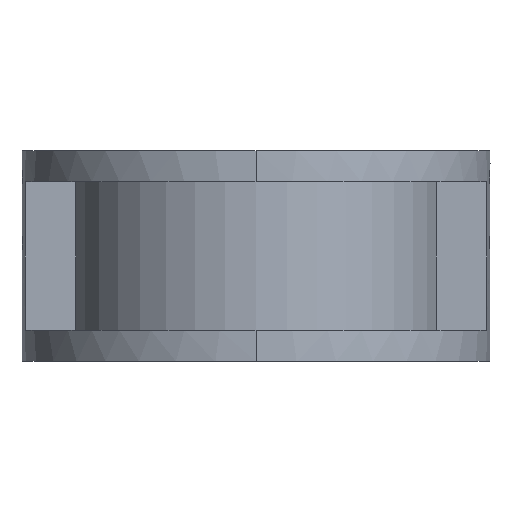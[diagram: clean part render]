
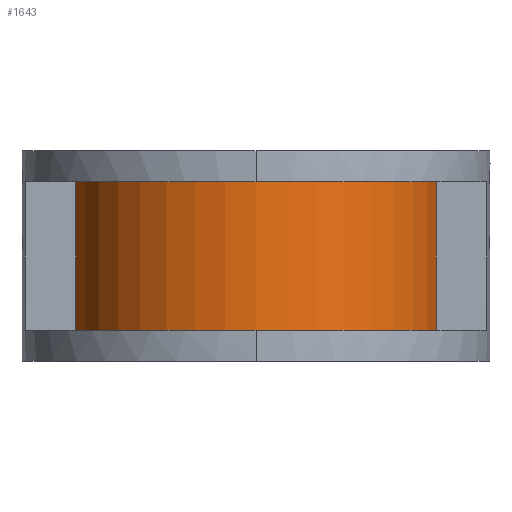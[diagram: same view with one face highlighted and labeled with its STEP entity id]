
A CAD part, left-side view. The second image highlights one B-rep face of the part: STEP entity #1643.
In plain terms, the highlighted cylindrical face has radius 56 mm (diameter 112 mm), a partial arc.
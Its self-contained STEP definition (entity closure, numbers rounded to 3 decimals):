
#347=CARTESIAN_POINT('',(0.,0.,22.5));
#348=DIRECTION('',(0.,0.,1.));
#349=DIRECTION('',(-0.214,0.977,0.));
#350=AXIS2_PLACEMENT_3D('',#347,#348,#349);
#352=DIRECTION('',(0.,0.,1.));
#353=VECTOR('',#352,45.);
#354=CARTESIAN_POINT('',(-12.,-54.699,-22.5));
#355=LINE('',#354,#353);
#356=CARTESIAN_POINT('',(0.,0.,-22.5));
#357=DIRECTION('',(0.,0.,-1.));
#358=DIRECTION('',(-0.214,-0.977,0.));
#359=AXIS2_PLACEMENT_3D('',#356,#357,#358);
#361=DIRECTION('',(0.,0.,1.));
#362=VECTOR('',#361,45.);
#363=CARTESIAN_POINT('',(-12.,54.699,-22.5));
#364=LINE('',#363,#362);
#1119=CARTESIAN_POINT('',(-12.,54.699,-22.5));
#1121=VERTEX_POINT('',#1119);
#1122=CARTESIAN_POINT('',(-12.,-54.699,-22.5));
#1124=VERTEX_POINT('',#1122);
#1132=CARTESIAN_POINT('',(-12.,54.699,22.5));
#1133=VERTEX_POINT('',#1132);
#1138=CARTESIAN_POINT('',(-12.,-54.699,22.5));
#1140=VERTEX_POINT('',#1138);
#1631=CARTESIAN_POINT('',(0.,0.,-24.75));
#1632=DIRECTION('',(0.,0.,1.));
#1633=DIRECTION('',(-1.,0.,0.));
#1634=AXIS2_PLACEMENT_3D('',#1631,#1632,#1633);
#1635=CYLINDRICAL_SURFACE('',#1634,56.);
#1636=ORIENTED_EDGE('',*,*,#1613,.T.);
#1638=ORIENTED_EDGE('',*,*,#1637,.F.);
#1639=ORIENTED_EDGE('',*,*,#1534,.T.);
#1640=ORIENTED_EDGE('',*,*,#1582,.T.);
#1641=EDGE_LOOP('',(#1636,#1638,#1639,#1640));
#1642=FACE_OUTER_BOUND('',#1641,.F.);
#1643=ADVANCED_FACE('',(#1642),#1635,.T.);
#351=CIRCLE('',#350,56.);
#360=CIRCLE('',#359,56.);
#1534=EDGE_CURVE('',#1124,#1121,#360,.T.);
#1582=EDGE_CURVE('',#1121,#1133,#364,.T.);
#1613=EDGE_CURVE('',#1133,#1140,#351,.T.);
#1637=EDGE_CURVE('',#1124,#1140,#355,.T.);
